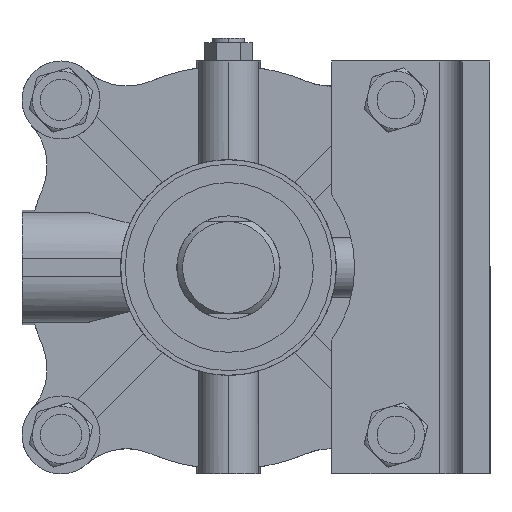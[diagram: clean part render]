
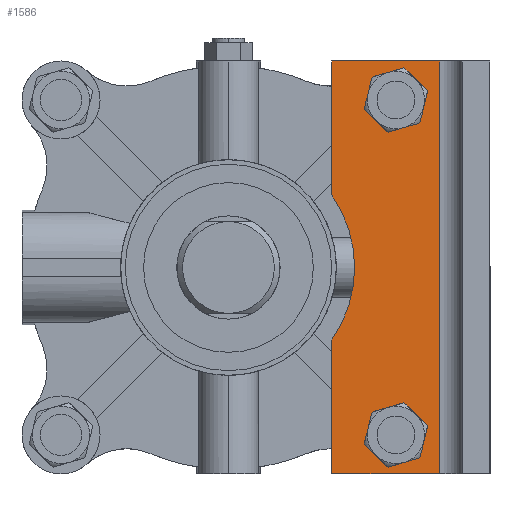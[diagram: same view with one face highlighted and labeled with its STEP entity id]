
A CAD part, left-side view. The second image highlights one B-rep face of the part: STEP entity #1586.
In plain terms, the highlighted planar face has unit normal (-1, 0, 0) as drawn and (0, 0, 1) by its records, which use the part's own axes.
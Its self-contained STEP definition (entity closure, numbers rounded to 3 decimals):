
#81 = CARTESIAN_POINT ( 'NONE',  ( 0., -16.135, 0. ) ) ;
#190 = CARTESIAN_POINT ( 'NONE',  ( 73., -44.135, 0. ) ) ;
#349 = VERTEX_POINT ( 'NONE', #5399 ) ;
#465 = DIRECTION ( 'NONE',  ( 0., 0., 1. ) ) ;
#769 = VERTEX_POINT ( 'NONE', #2300 ) ;
#857 = VERTEX_POINT ( 'NONE', #7839 ) ;
#860 = ORIENTED_EDGE ( 'NONE', *, *, #3382, .T. ) ;
#1020 = VECTOR ( 'NONE', #6678, 1000. ) ;
#1097 = CARTESIAN_POINT ( 'NONE',  ( -82., -44.135, 0. ) ) ;
#1465 = CARTESIAN_POINT ( 'NONE',  ( -90., -63.135, 0. ) ) ;
#1586 = ADVANCED_FACE ( 'NONE', ( #4558, #7376, #2895 ), #10007, .T. ) ;
#1591 = DIRECTION ( 'NONE',  ( -1., 0., 0. ) ) ;
#1620 = AXIS2_PLACEMENT_3D ( 'NONE', #8553, #7579, #9549 ) ;
#1707 = EDGE_LOOP ( 'NONE', ( #8501, #8005 ) ) ;
#1773 = VECTOR ( 'NONE', #1591, 1000. ) ;
#1991 = VERTEX_POINT ( 'NONE', #8384 ) ;
#2133 = LINE ( 'NONE', #6300, #9853 ) ;
#2175 = VECTOR ( 'NONE', #6488, 1000. ) ;
#2300 = CARTESIAN_POINT ( 'NONE',  ( 90., -16.135, 0. ) ) ;
#2489 = ORIENTED_EDGE ( 'NONE', *, *, #5660, .F. ) ;
#2586 = CIRCLE ( 'NONE', #9207, 9. ) ;
#2681 = CARTESIAN_POINT ( 'NONE',  ( -64., -44.135, 0. ) ) ;
#2843 = ORIENTED_EDGE ( 'NONE', *, *, #5250, .T. ) ;
#2878 = CARTESIAN_POINT ( 'NONE',  ( 0., -63.135, 0. ) ) ;
#2895 = FACE_BOUND ( 'NONE', #3819, .T. ) ;
#2947 = VERTEX_POINT ( 'NONE', #4754 ) ;
#2983 = DIRECTION ( 'NONE',  ( 1., 0., 0. ) ) ;
#3006 = CARTESIAN_POINT ( 'NONE',  ( -73., -44.135, 0. ) ) ;
#3016 = ORIENTED_EDGE ( 'NONE', *, *, #6738, .T. ) ;
#3115 = EDGE_LOOP ( 'NONE', ( #2843, #860, #5466, #9150, #8472, #3016 ) ) ;
#3308 = VERTEX_POINT ( 'NONE', #2681 ) ;
#3382 = EDGE_CURVE ( 'NONE', #7974, #2947, #9356, .T. ) ;
#3483 = CIRCLE ( 'NONE', #1620, 9. ) ;
#3522 = ORIENTED_EDGE ( 'NONE', *, *, #7676, .F. ) ;
#3601 = DIRECTION ( 'NONE',  ( 1., 0., 0. ) ) ;
#3652 = EDGE_CURVE ( 'NONE', #1991, #7442, #3874, .T. ) ;
#3732 = CARTESIAN_POINT ( 'NONE',  ( 82., -44.135, 0. ) ) ;
#3815 = DIRECTION ( 'NONE',  ( 1., 0., 0. ) ) ;
#3819 = EDGE_LOOP ( 'NONE', ( #3522, #2489 ) ) ;
#3827 = DIRECTION ( 'NONE',  ( 1., 0., 0. ) ) ;
#3874 = CIRCLE ( 'NONE', #6213, 55. ) ;
#4318 = CARTESIAN_POINT ( 'NONE',  ( 90., 0., 0. ) ) ;
#4321 = DIRECTION ( 'NONE',  ( 0., 0., 1. ) ) ;
#4526 = VECTOR ( 'NONE', #8518, 1000. ) ;
#4558 = FACE_OUTER_BOUND ( 'NONE', #3115, .T. ) ;
#4754 = CARTESIAN_POINT ( 'NONE',  ( 90., -63.135, 0. ) ) ;
#5250 = EDGE_CURVE ( 'NONE', #349, #7974, #2133, .T. ) ;
#5335 = CARTESIAN_POINT ( 'NONE',  ( 31.623, -16.135, 0. ) ) ;
#5399 = CARTESIAN_POINT ( 'NONE',  ( -90., -16.135, 0. ) ) ;
#5466 = ORIENTED_EDGE ( 'NONE', *, *, #6453, .F. ) ;
#5582 = LINE ( 'NONE', #9286, #1773 ) ;
#5606 = VERTEX_POINT ( 'NONE', #3732 ) ;
#5660 = EDGE_CURVE ( 'NONE', #857, #5606, #3483, .T. ) ;
#5827 = AXIS2_PLACEMENT_3D ( 'NONE', #3006, #4321, #3815 ) ;
#6165 = DIRECTION ( 'NONE',  ( 0., 0., 1. ) ) ;
#6213 = AXIS2_PLACEMENT_3D ( 'NONE', #6979, #7469, #2983 ) ;
#6245 = EDGE_CURVE ( 'NONE', #769, #7442, #5582, .T. ) ;
#6300 = CARTESIAN_POINT ( 'NONE',  ( -90., 0., 0. ) ) ;
#6453 = EDGE_CURVE ( 'NONE', #769, #2947, #7825, .T. ) ;
#6488 = DIRECTION ( 'NONE',  ( 0., -1., 0. ) ) ;
#6678 = DIRECTION ( 'NONE',  ( -1., 0., 0. ) ) ;
#6738 = EDGE_CURVE ( 'NONE', #1991, #349, #8819, .T. ) ;
#6979 = CARTESIAN_POINT ( 'NONE',  ( 0., 28.865, 0. ) ) ;
#7256 = AXIS2_PLACEMENT_3D ( 'NONE', #190, #9743, #3601 ) ;
#7376 = FACE_BOUND ( 'NONE', #1707, .T. ) ;
#7442 = VERTEX_POINT ( 'NONE', #5335 ) ;
#7469 = DIRECTION ( 'NONE',  ( 0., 0., 1. ) ) ;
#7579 = DIRECTION ( 'NONE',  ( 0., 0., 1. ) ) ;
#7676 = EDGE_CURVE ( 'NONE', #5606, #857, #9830, .T. ) ;
#7702 = CIRCLE ( 'NONE', #5827, 9. ) ;
#7825 = LINE ( 'NONE', #4318, #2175 ) ;
#7839 = CARTESIAN_POINT ( 'NONE',  ( 64., -44.135, 0. ) ) ;
#7974 = VERTEX_POINT ( 'NONE', #1465 ) ;
#8005 = ORIENTED_EDGE ( 'NONE', *, *, #8053, .F. ) ;
#8053 = EDGE_CURVE ( 'NONE', #8507, #3308, #2586, .T. ) ;
#8062 = CARTESIAN_POINT ( 'NONE',  ( 0., 0., 0. ) ) ;
#8384 = CARTESIAN_POINT ( 'NONE',  ( -31.623, -16.135, 0. ) ) ;
#8472 = ORIENTED_EDGE ( 'NONE', *, *, #3652, .F. ) ;
#8501 = ORIENTED_EDGE ( 'NONE', *, *, #8506, .F. ) ;
#8506 = EDGE_CURVE ( 'NONE', #3308, #8507, #7702, .T. ) ;
#8507 = VERTEX_POINT ( 'NONE', #1097 ) ;
#8516 = AXIS2_PLACEMENT_3D ( 'NONE', #8062, #465, #8875 ) ;
#8518 = DIRECTION ( 'NONE',  ( 1., 0., 0. ) ) ;
#8553 = CARTESIAN_POINT ( 'NONE',  ( 73., -44.135, 0. ) ) ;
#8615 = DIRECTION ( 'NONE',  ( 0., -1., 0. ) ) ;
#8651 = CARTESIAN_POINT ( 'NONE',  ( -73., -44.135, 0. ) ) ;
#8819 = LINE ( 'NONE', #81, #1020 ) ;
#8875 = DIRECTION ( 'NONE',  ( 1., 0., 0. ) ) ;
#9150 = ORIENTED_EDGE ( 'NONE', *, *, #6245, .T. ) ;
#9207 = AXIS2_PLACEMENT_3D ( 'NONE', #8651, #6165, #3827 ) ;
#9286 = CARTESIAN_POINT ( 'NONE',  ( 0., -16.135, 0. ) ) ;
#9356 = LINE ( 'NONE', #2878, #4526 ) ;
#9549 = DIRECTION ( 'NONE',  ( 1., 0., 0. ) ) ;
#9743 = DIRECTION ( 'NONE',  ( 0., 0., 1. ) ) ;
#9830 = CIRCLE ( 'NONE', #7256, 9. ) ;
#9853 = VECTOR ( 'NONE', #8615, 1000. ) ;
#10007 = PLANE ( 'NONE',  #8516 ) ;
